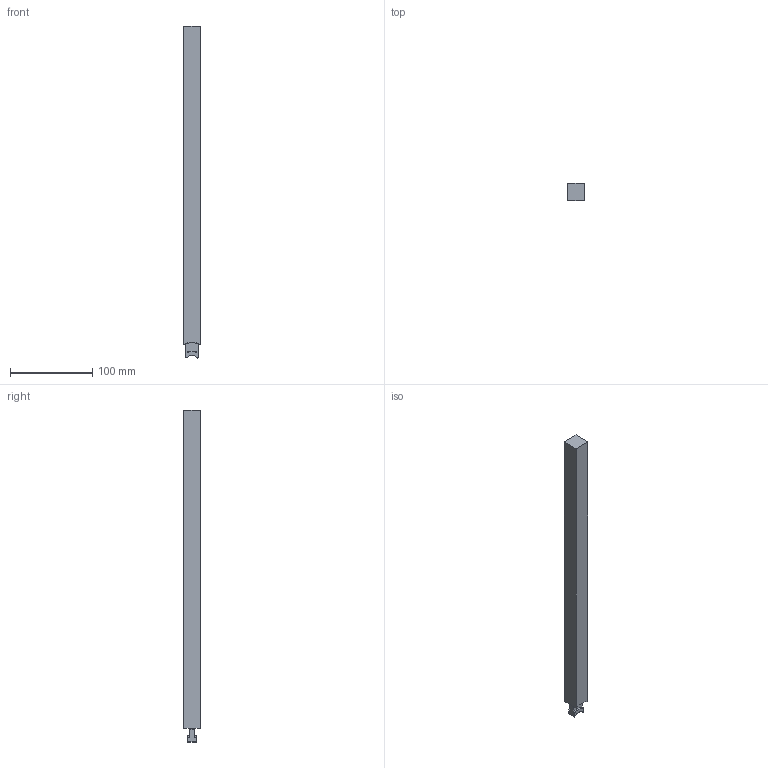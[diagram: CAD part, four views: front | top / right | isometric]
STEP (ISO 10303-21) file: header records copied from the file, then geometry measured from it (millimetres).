
FILE_DESCRIPTION (( 'STEP AP214' ), '1' );
FILE_NAME ('CBMM20X20L400.STEP', '2011-08-03T19:29:12', ( '' ), ( '' ), 'SwSTEP 2.0', 'SolidWorks 2010', '' );
FILE_SCHEMA (( 'AUTOMOTIVE_DESIGN' ));
Length unit declared in the file: millimetre
Products named in the file (1): CBMM20X20L400
Bounding box: 20.25 x 20.25 x 403 mm (x, y, z)
Volume: 159579.1 mm3; surface area: 32906.1 mm2
Topology: 1 solids, 1 shells, 39 faces, 103 edges, 66 vertices
Faces by surface type: cylinder 16, torus 12, plane 11
Entity records: 1343 total; most frequent: CARTESIAN_POINT 341, DIRECTION 207, ORIENTED_EDGE 206, EDGE_CURVE 103, AXIS2_PLACEMENT_3D 84, VERTEX_POINT 66, CIRCLE 44, EDGE_LOOP 39
